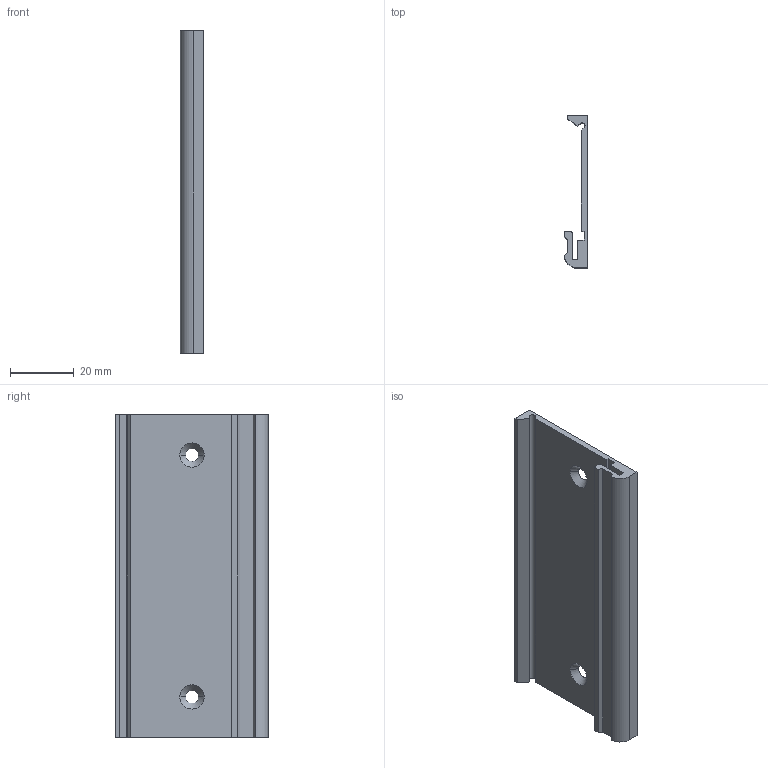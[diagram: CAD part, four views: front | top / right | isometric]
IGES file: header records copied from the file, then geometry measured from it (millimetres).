
Start section:  PTC IGES file: cu_cfp_din_rail.igs
Global section: file name: cu_cfp_din_rail.igs; native system: Pro/ENGINEER by Parametric Technology Corporation; preprocessor: 2006300; author: chrisj; organization: Unknown; date: 20070716.142354; units: inch
Bounding box: 7.49 x 48.01 x 101.6 mm (x, y, z)
Surface area: 14413.5 mm2 (no closed solid volume)
Topology: 0 solids, 0 shells, 28 faces, 156 edges, 156 vertices
Faces by surface type: bspline 21, revolution 7
